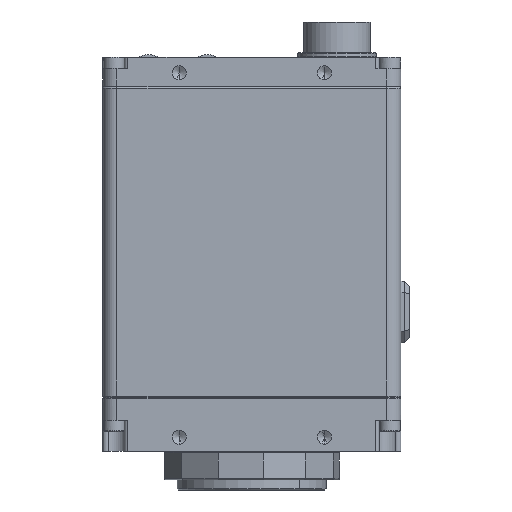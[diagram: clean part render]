
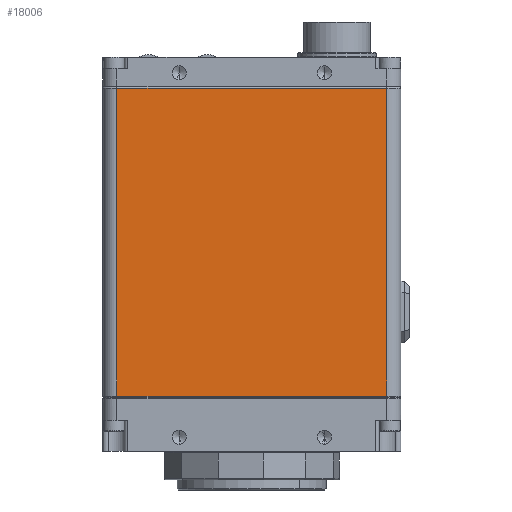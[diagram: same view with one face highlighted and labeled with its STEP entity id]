
A CAD part, front view. The second image highlights one B-rep face of the part: STEP entity #18006.
In plain terms, the highlighted planar face has unit normal (0, -1, 0).
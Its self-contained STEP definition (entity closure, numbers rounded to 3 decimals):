
#1410 = VECTOR ( 'NONE', #17322, 1000. ) ;
#3028 = CARTESIAN_POINT ( 'NONE',  ( 24.13, -16.51, -44.955 ) ) ;
#3191 = CARTESIAN_POINT ( 'NONE',  ( -24.13, -16.51, -44.701 ) ) ;
#4904 = VECTOR ( 'NONE', #19342, 1000. ) ;
#4992 = EDGE_CURVE ( 'NONE', #47541, #51044, #47819, .T. ) ;
#5548 = CARTESIAN_POINT ( 'NONE',  ( 24.13, -16.51, 10.316 ) ) ;
#8301 = PLANE ( 'NONE',  #38831 ) ;
#11645 = EDGE_CURVE ( 'NONE', #21831, #47541, #50175, .T. ) ;
#15824 = EDGE_LOOP ( 'NONE', ( #43775, #24980, #23931, #41090 ) ) ;
#16231 = CARTESIAN_POINT ( 'NONE',  ( -26.67, -16.51, -44.955 ) ) ;
#16766 = FACE_OUTER_BOUND ( 'NONE', #15824, .T. ) ;
#17322 = DIRECTION ( 'NONE',  ( -1., 0., 0. ) ) ;
#18006 = ADVANCED_FACE ( 'NONE', ( #16766 ), #8301, .F. ) ;
#19342 = DIRECTION ( 'NONE',  ( 1., 0., 0. ) ) ;
#21831 = VERTEX_POINT ( 'NONE', #3191 ) ;
#22227 = EDGE_CURVE ( 'NONE', #51044, #45281, #45455, .T. ) ;
#22664 = CARTESIAN_POINT ( 'NONE',  ( 24.13, -16.51, -44.701 ) ) ;
#22704 = DIRECTION ( 'NONE',  ( 0., 0., 1. ) ) ;
#23224 = LINE ( 'NONE', #26573, #37569 ) ;
#23649 = CARTESIAN_POINT ( 'NONE',  ( 24.13, -16.51, -44.701 ) ) ;
#23931 = ORIENTED_EDGE ( 'NONE', *, *, #4992, .T. ) ;
#24980 = ORIENTED_EDGE ( 'NONE', *, *, #11645, .T. ) ;
#25454 = EDGE_CURVE ( 'NONE', #45281, #21831, #23224, .T. ) ;
#26573 = CARTESIAN_POINT ( 'NONE',  ( -24.13, -16.51, -44.955 ) ) ;
#32923 = VECTOR ( 'NONE', #22704, 1000. ) ;
#36016 = DIRECTION ( 'NONE',  ( 0., 1., 0. ) ) ;
#37569 = VECTOR ( 'NONE', #38801, 1000. ) ;
#38801 = DIRECTION ( 'NONE',  ( 0., 0., -1. ) ) ;
#38831 = AXIS2_PLACEMENT_3D ( 'NONE', #16231, #36016, #48172 ) ;
#41090 = ORIENTED_EDGE ( 'NONE', *, *, #22227, .T. ) ;
#41814 = CARTESIAN_POINT ( 'NONE',  ( -26.67, -16.51, 10.316 ) ) ;
#43775 = ORIENTED_EDGE ( 'NONE', *, *, #25454, .T. ) ;
#45281 = VERTEX_POINT ( 'NONE', #50171 ) ;
#45455 = LINE ( 'NONE', #41814, #1410 ) ;
#47541 = VERTEX_POINT ( 'NONE', #22664 ) ;
#47819 = LINE ( 'NONE', #3028, #32923 ) ;
#48172 = DIRECTION ( 'NONE',  ( 1., 0., 0. ) ) ;
#50171 = CARTESIAN_POINT ( 'NONE',  ( -24.13, -16.51, 10.316 ) ) ;
#50175 = LINE ( 'NONE', #23649, #4904 ) ;
#51044 = VERTEX_POINT ( 'NONE', #5548 ) ;
